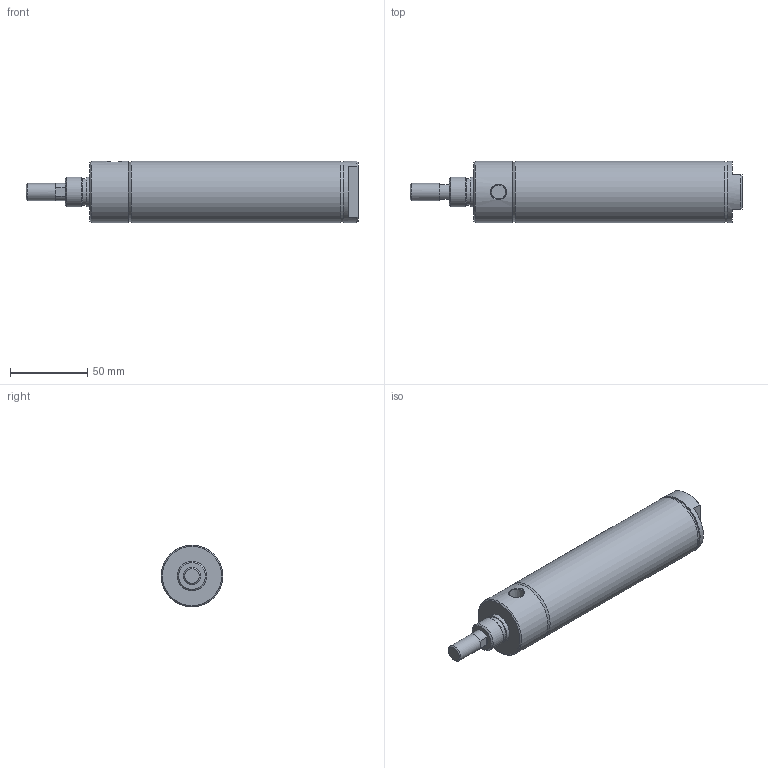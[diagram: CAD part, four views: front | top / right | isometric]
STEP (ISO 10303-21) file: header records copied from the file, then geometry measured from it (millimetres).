
FILE_DESCRIPTION( ( 'STEP AP214' ), '1' );
FILE_NAME( 'p:/temp/worker_473/temp/exporttempdir_84348_45_aRCpm/format_0/1500D01-04A.stp', '2020-05-07T18:27:07', ( 'License CC BY-ND 4.0' ), ( 'CADENAS' ), ' ', 'PARTsolutions', ' ' );
FILE_SCHEMA( ( 'AUTOMOTIVE_DESIGN { 1 0 10303 214 1 1 1 1 }' ) );
Length unit declared in the file: inch
Products named in the file (3): 1500D01-04A; _1500D01-04A-0000A00A0b; _1500D01-04A-000r
Assembly tree (2 placements, depth 2):
  1500D01-04A
    _1500D01-04A-0000A00A0b
    _1500D01-04A-000r
Bounding box: 214.33 x 39.73 x 39.73 mm (x, y, z)
Volume: 110966.5 mm3; surface area: 57703.4 mm2
Topology: 2 solids, 2 shells, 50 faces, 96 edges, 60 vertices
Faces by surface type: plane 26, cone 12, cylinder 12
Full cylindrical faces by diameter (mm): 11.112 x1, 11.125 x3, 17.178 x1, 19.025 x1, 19.05 x1, 38.1 x2, 39.7 x2, 39.726 x1
Entity records: 1653 total; most frequent: CARTESIAN_POINT 265, DIRECTION 216, ORIENTED_EDGE 140, AXIS2_PLACEMENT_3D 98, EDGE_LOOP 82, EDGE_CURVE 70, FACE_OUTER_BOUND 62, VERTEX_POINT 56
